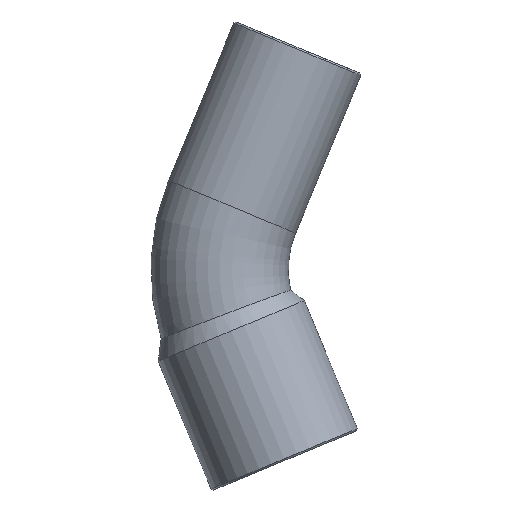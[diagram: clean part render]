
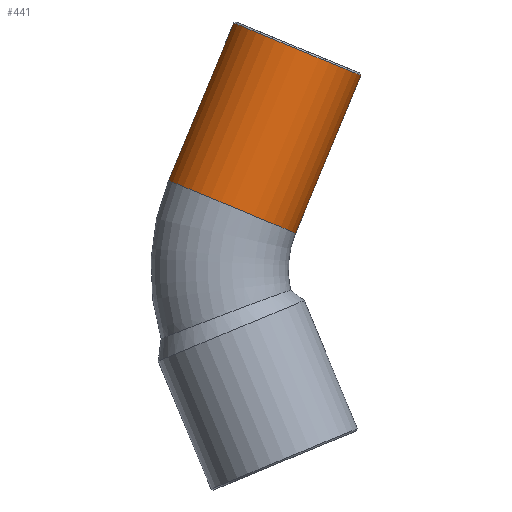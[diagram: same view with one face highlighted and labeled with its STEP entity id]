
A CAD part, front view. The second image highlights one B-rep face of the part: STEP entity #441.
In plain terms, the highlighted cylindrical face has radius 4 mm (diameter 8 mm), a partial arc.
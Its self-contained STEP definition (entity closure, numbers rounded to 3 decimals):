
#51=CARTESIAN_POINT('',(-8.13,0.,5.204));
#52=VERTEX_POINT('',#51);
#85=CARTESIAN_POINT('',(-0.739,0.,2.143));
#86=VERTEX_POINT('',#85);
#94=CARTESIAN_POINT('',(-4.434,0.,3.674));
#95=DIRECTION('',(-0.383,0.,-0.924));
#96=DIRECTION('',(-0.924,0.,0.383));
#97=AXIS2_PLACEMENT_3D('',#94,#95,#96);
#98=CIRCLE('',#97,4.0);
#99=EDGE_CURVE('',#86,#52,#98,.T.);
#410=CARTESIAN_POINT('',(-4.434,0.,3.674));
#411=DIRECTION('',(0.383,0.,0.924));
#412=DIRECTION('',(-0.924,0.,0.383));
#413=AXIS2_PLACEMENT_3D('',#410,#411,#412);
#414=CYLINDRICAL_SURFACE('',#413,4.);
#415=CARTESIAN_POINT('',(-4.332,0.,14.373));
#416=VERTEX_POINT('',#415);
#417=CARTESIAN_POINT('',(-8.13,0.,5.204));
#418=DIRECTION('',(0.383,0.,0.924));
#419=VECTOR('',#418,9.924);
#420=LINE('',#417,#419);
#421=EDGE_CURVE('',#52,#416,#420,.T.);
#422=ORIENTED_EDGE('',*,*,#421,.F.);
#423=ORIENTED_EDGE('',*,*,#99,.F.);
#424=CARTESIAN_POINT('',(3.059,0.,11.311));
#425=VERTEX_POINT('',#424);
#426=CARTESIAN_POINT('',(3.059,0.,11.311));
#427=DIRECTION('',(-0.383,0.,-0.924));
#428=VECTOR('',#427,9.924);
#429=LINE('',#426,#428);
#430=EDGE_CURVE('',#425,#86,#429,.T.);
#431=ORIENTED_EDGE('',*,*,#430,.F.);
#432=CARTESIAN_POINT('',(-0.637,0.,12.842));
#433=DIRECTION('',(0.383,0.,0.924));
#434=DIRECTION('',(-0.924,0.,0.383));
#435=AXIS2_PLACEMENT_3D('',#432,#433,#434);
#436=CIRCLE('',#435,4.);
#437=EDGE_CURVE('',#416,#425,#436,.T.);
#438=ORIENTED_EDGE('',*,*,#437,.F.);
#439=EDGE_LOOP('',(#422,#423,#431,#438));
#440=FACE_OUTER_BOUND('',#439,.T.);
#441=ADVANCED_FACE('',(#440),#414,.T.);
